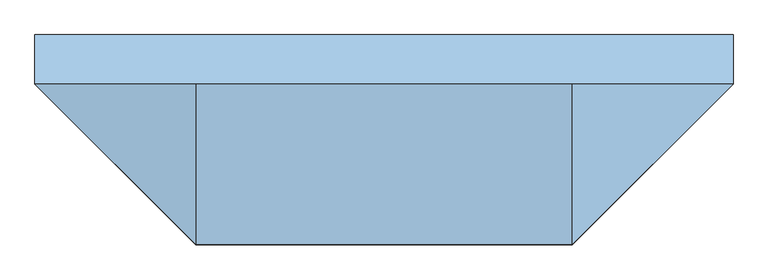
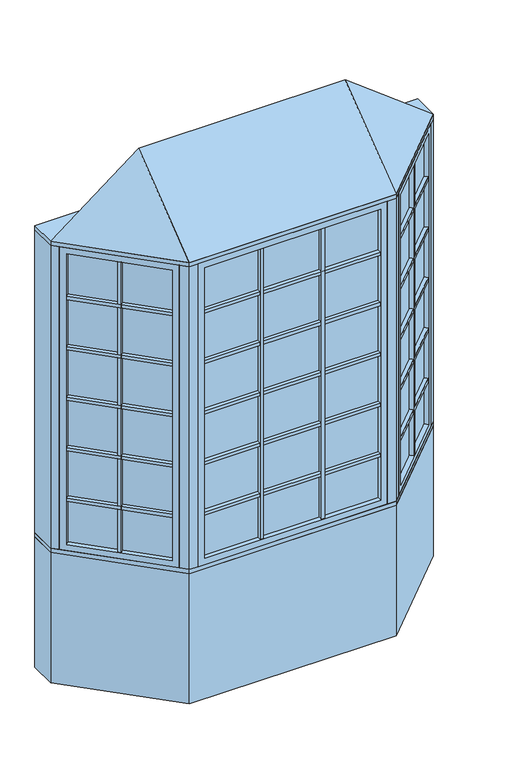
"""IFC4 building model written with IfcOpenShell, lengths in millimetres: window geometry, Pollard_Windows_Tudor Casement Bows and Bays : AML-BAY 45 AFR0618-10-600_GC."""

from ifc_helpers import new_model, si_unit, frame, origin, origin_with_axes, place, context, project, spatial, polyline, outline, extrude, faceted_brep, source, transform, mapped, element, save


def window_4135a6ea(model_context):
    return source(origin(), model_context, "Body", "SolidModel", [
        extrude(outline(polyline([(639.5114193, -506.9608753), (623.9550701, -491.4045261), (1001.616171, -113.7434252), (1017.1725202, -129.2997743), (639.5114193, -506.9608753)])), frame((0.0, 0.0, 1690.998), z_axis=(0.0, 0.0, 1.0), x_axis=(1.0, 0.0, 0.0)), (0.0, 0.0, 1.0), 18.0),
        extrude(outline(polyline([(620.3629677, -487.8124236), (604.8066185, -472.2560744), (982.4677194, -94.5949735), (998.0240686, -110.1513227), (620.3629677, -487.8124236)])), frame((0.0, 0.0, 1690.998), z_axis=(0.0, 0.0, 1.0), x_axis=(1.0, 0.0, 0.0)), (0.0, 0.0, 1.0), 18.0),
        extrude(outline(polyline([(639.5114193, -506.9608753), (623.9550701, -491.4045261), (1001.616171, -113.7434252), (1017.1725202, -129.2997743), (639.5114193, -506.9608753)])), frame((0.0, 0.0, 1090.998), z_axis=(0.0, 0.0, 1.0), x_axis=(1.0, 0.0, 0.0)), (0.0, 0.0, 1.0), 18.0),
        extrude(outline(polyline([(620.3629677, -487.8124236), (604.8066185, -472.2560744), (982.4677194, -94.5949735), (998.0240686, -110.1513227), (620.3629677, -487.8124236)])), frame((0.0, 0.0, 1090.998), z_axis=(0.0, 0.0, 1.0), x_axis=(1.0, 0.0, 0.0)), (0.0, 0.0, 1.0), 18.0),
        extrude(outline(polyline([(639.5114193, -506.9608753), (623.9550701, -491.4045261), (1001.616171, -113.7434252), (1017.1725202, -129.2997743), (639.5114193, -506.9608753)])), frame((0.0, 0.0, 1390.998), z_axis=(0.0, 0.0, 1.0), x_axis=(1.0, 0.0, 0.0)), (0.0, 0.0, 1.0), 18.0),
        extrude(outline(polyline([(620.3629677, -487.8124236), (604.8066185, -472.2560744), (982.4677194, -94.5949735), (998.0240686, -110.1513227), (620.3629677, -487.8124236)])), frame((0.0, 0.0, 1390.998), z_axis=(0.0, 0.0, 1.0), x_axis=(1.0, 0.0, 0.0)), (0.0, 0.0, 1.0), 18.0),
        extrude(outline(polyline([(639.5114193, -506.9608753), (623.9550701, -491.4045261), (1001.616171, -113.7434252), (1017.1725202, -129.2997743), (639.5114193, -506.9608753)])), frame((0.0, 0.0, 1990.998), z_axis=(0.0, 0.0, 1.0), x_axis=(1.0, 0.0, 0.0)), (0.0, 0.0, 1.0), 18.0),
        extrude(outline(polyline([(620.3629677, -487.8124236), (604.8066185, -472.2560744), (982.4677194, -94.5949735), (998.0240686, -110.1513227), (620.3629677, -487.8124236)])), frame((0.0, 0.0, 1990.998), z_axis=(0.0, 0.0, 1.0), x_axis=(1.0, 0.0, 0.0)), (0.0, 0.0, 1.0), 18.0),
        extrude(outline(polyline([(639.5114193, -506.9608753), (623.9550701, -491.4045261), (1001.616171, -113.7434252), (1017.1725202, -129.2997743), (639.5114193, -506.9608753)])), frame((0.0, 0.0, 2290.998), z_axis=(0.0, 0.0, 1.0), x_axis=(1.0, 0.0, 0.0)), (0.0, 0.0, 1.0), 18.0),
        extrude(outline(polyline([(620.3629677, -487.8124236), (604.8066185, -472.2560744), (982.4677194, -94.5949735), (998.0240686, -110.1513227), (620.3629677, -487.8124236)])), frame((0.0, 0.0, 2290.998), z_axis=(0.0, 0.0, 1.0), x_axis=(1.0, 0.0, 0.0)), (0.0, 0.0, 1.0), 18.0),
        extrude(outline(polyline([(819.1495816, -296.2100146), (834.7059308, -311.7663638), (821.9780087, -324.4942858), (806.4216595, -308.9379366), (819.1495816, -296.2100146)])), frame((0.0, 0.0, 835.8628), z_axis=(0.0, 0.0, 1.0), x_axis=(1.0, 0.0, 0.0)), (0.0, 0.0, 1.0), 1728.2704),
        extrude(outline(polyline([(815.5574791, -292.6179121), (802.8295571, -305.3458342), (787.2732079, -289.789485), (800.00113, -277.0615629), (815.5574791, -292.6179121)])), frame((0.0, 0.0, 835.8628), z_axis=(0.0, 0.0, 1.0), x_axis=(1.0, 0.0, 0.0)), (0.0, 0.0, 1.0), 1728.2704),
        extrude(outline(polyline([(1010.5964271, -104.763169), (614.974814, -500.3847822), (611.3827115, -496.7926797), (1007.0043247, -101.1710666), (1010.5964271, -104.763169)])), frame((0.0, 0.0, 823.1628), z_axis=(0.0, 0.0, 1.0), x_axis=(1.0, 0.0, 0.0)), (0.0, 0.0, 1.0), 1753.6704),
        faceted_brep([(1001.616171, -113.7434252, 835.8628), (1019.5766833, -131.7039374, 835.8628), (1019.5766833, -131.7039374, 2564.1332), (1001.616171, -113.7434252, 2564.1332), (1007.0043247, -101.1710666, 823.1628), (1010.5964271, -104.763169, 823.1628), (1010.5964271, -104.763169, 2576.8332), (1007.0043247, -101.1710666, 2576.8332), (980.0635563, -92.1908105, 835.8628), (998.0240686, -110.1513227, 835.8628), (998.0240686, -110.1513227, 2564.1332), (980.0635563, -92.1908105, 2564.1332), (1044.9369265, -106.3436941, 799.998), (1005.4237996, -66.8305672, 799.998), (1005.4237996, -66.8305672, 2599.998), (1044.9369265, -106.3436941, 2599.998), (641.9155823, -509.3650383, 2564.1332), (623.9550701, -491.4045261, 2564.1332), (614.974814, -500.3847822, 2576.8332), (611.3827115, -496.7926797, 2576.8332), (620.3629677, -487.8124236, 2564.1332), (602.4024554, -469.8519114, 2564.1332), (577.0422121, -495.2121547, 2599.998), (616.5553391, -534.7252816, 2599.998), (641.9155823, -509.3650383, 835.8628), (623.9550701, -491.4045261, 835.8628), (614.974814, -500.3847822, 823.1628), (611.3827115, -496.7926797, 823.1628), (620.3629677, -487.8124236, 835.8628), (602.4024554, -469.8519114, 835.8628), (577.0422121, -495.2121547, 799.998), (616.5553391, -534.7252816, 799.998)], [[[0, 1, 2, 3]], [[4, 5, 6, 7]], [[8, 9, 10, 11]], [[12, 13, 14, 15]], [[3, 2, 16, 17]], [[7, 6, 18, 19]], [[11, 10, 20, 21]], [[15, 14, 22, 23]], [[17, 16, 24, 25]], [[19, 18, 26, 27]], [[21, 20, 28, 29]], [[23, 22, 30, 31]], [[25, 24, 1, 0]], [[5, 26, 18, 6], [3, 17, 25, 0]], [[27, 26, 5, 4]], [[7, 19, 27, 4], [9, 28, 20, 10]], [[29, 28, 9, 8]], [[13, 30, 22, 14], [11, 21, 29, 8]], [[31, 30, 13, 12]], [[15, 23, 31, 12], [1, 24, 16, 2]]]),
        extrude(outline(polyline([(181.3452, -544.6806207), (181.3452, -566.6806207), (163.3452, -566.6806207), (163.3452, -544.6806207), (181.3452, -544.6806207)])), frame((0.0, 0.0, 835.8628), z_axis=(0.0, 0.0, 1.0), x_axis=(1.0, 0.0, 0.0)), (0.0, 0.0, 1.0), 1728.2704),
        extrude(outline(polyline([(181.3452, -539.6006207), (163.3452, -539.6006207), (163.3452, -517.6006207), (181.3452, -517.6006207), (181.3452, -539.6006207)])), frame((0.0, 0.0, 835.8628), z_axis=(0.0, 0.0, 1.0), x_axis=(1.0, 0.0, 0.0)), (0.0, 0.0, 1.0), 1728.2704),
        extrude(outline(polyline([(-163.3452, -544.6806207), (-163.3452, -566.6806207), (-181.3452, -566.6806207), (-181.3452, -544.6806207), (-163.3452, -544.6806207)])), frame((0.0, 0.0, 835.8628), z_axis=(0.0, 0.0, 1.0), x_axis=(1.0, 0.0, 0.0)), (0.0, 0.0, 1.0), 1728.2704),
        extrude(outline(polyline([(-163.3452, -539.6006207), (-181.3452, -539.6006207), (-181.3452, -517.6006207), (-163.3452, -517.6006207), (-163.3452, -539.6006207)])), frame((0.0, 0.0, 835.8628), z_axis=(0.0, 0.0, 1.0), x_axis=(1.0, 0.0, 0.0)), (0.0, 0.0, 1.0), 1728.2704),
        extrude(outline(polyline([(-495.3352, -566.6806207), (-495.3352, -544.6806207), (495.3352, -544.6806207), (495.3352, -566.6806207), (-495.3352, -566.6806207)])), frame((0.0, 0.0, 1090.998), z_axis=(0.0, 0.0, 1.0), x_axis=(1.0, 0.0, 0.0)), (0.0, 0.0, 1.0), 18.0),
        extrude(outline(polyline([(-495.3352, -539.6006207), (-495.3352, -517.6006207), (495.3352, -517.6006207), (495.3352, -539.6006207), (-495.3352, -539.6006207)])), frame((0.0, 0.0, 1090.998), z_axis=(0.0, 0.0, 1.0), x_axis=(1.0, 0.0, 0.0)), (0.0, 0.0, 1.0), 18.0),
        extrude(outline(polyline([(-495.3352, -566.6806207), (-495.3352, -544.6806207), (495.3352, -544.6806207), (495.3352, -566.6806207), (-495.3352, -566.6806207)])), frame((0.0, 0.0, 1390.998), z_axis=(0.0, 0.0, 1.0), x_axis=(1.0, 0.0, 0.0)), (0.0, 0.0, 1.0), 18.0),
        extrude(outline(polyline([(-495.3352, -539.6006207), (-495.3352, -517.6006207), (495.3352, -517.6006207), (495.3352, -539.6006207), (-495.3352, -539.6006207)])), frame((0.0, 0.0, 1390.998), z_axis=(0.0, 0.0, 1.0), x_axis=(1.0, 0.0, 0.0)), (0.0, 0.0, 1.0), 18.0),
        extrude(outline(polyline([(-495.3352, -566.6806207), (-495.3352, -544.6806207), (495.3352, -544.6806207), (495.3352, -566.6806207), (-495.3352, -566.6806207)])), frame((0.0, 0.0, 1690.998), z_axis=(0.0, 0.0, 1.0), x_axis=(1.0, 0.0, 0.0)), (0.0, 0.0, 1.0), 18.0),
        extrude(outline(polyline([(-495.3352, -539.6006207), (-495.3352, -517.6006207), (495.3352, -517.6006207), (495.3352, -539.6006207), (-495.3352, -539.6006207)])), frame((0.0, 0.0, 1690.998), z_axis=(0.0, 0.0, 1.0), x_axis=(1.0, 0.0, 0.0)), (0.0, 0.0, 1.0), 18.0),
        extrude(outline(polyline([(-495.3352, -566.6806207), (-495.3352, -544.6806207), (495.3352, -544.6806207), (495.3352, -566.6806207), (-495.3352, -566.6806207)])), frame((0.0, 0.0, 1990.998), z_axis=(0.0, 0.0, 1.0), x_axis=(1.0, 0.0, 0.0)), (0.0, 0.0, 1.0), 18.0),
        extrude(outline(polyline([(-495.3352, -539.6006207), (-495.3352, -517.6006207), (495.3352, -517.6006207), (495.3352, -539.6006207), (-495.3352, -539.6006207)])), frame((0.0, 0.0, 1990.998), z_axis=(0.0, 0.0, 1.0), x_axis=(1.0, 0.0, 0.0)), (0.0, 0.0, 1.0), 18.0),
        extrude(outline(polyline([(-1017.1725202, -129.2997743), (-1001.616171, -113.7434252), (-623.9550701, -491.4045261), (-639.5114193, -506.9608753), (-1017.1725202, -129.2997743)])), frame((0.0, 0.0, 1090.998), z_axis=(0.0, 0.0, 1.0), x_axis=(1.0, 0.0, 0.0)), (0.0, 0.0, 1.0), 18.0),
        extrude(outline(polyline([(-998.0240686, -110.1513227), (-982.4677194, -94.5949735), (-604.8066185, -472.2560744), (-620.3629677, -487.8124236), (-998.0240686, -110.1513227)])), frame((0.0, 0.0, 1090.998), z_axis=(0.0, 0.0, 1.0), x_axis=(1.0, 0.0, 0.0)), (0.0, 0.0, 1.0), 18.0),
        extrude(outline(polyline([(-1017.1725202, -129.2997743), (-1001.616171, -113.7434252), (-623.9550701, -491.4045261), (-639.5114193, -506.9608753), (-1017.1725202, -129.2997743)])), frame((0.0, 0.0, 1390.998), z_axis=(0.0, 0.0, 1.0), x_axis=(1.0, 0.0, 0.0)), (0.0, 0.0, 1.0), 18.0),
        extrude(outline(polyline([(-998.0240686, -110.1513227), (-982.4677194, -94.5949735), (-604.8066185, -472.2560744), (-620.3629677, -487.8124236), (-998.0240686, -110.1513227)])), frame((0.0, 0.0, 1390.998), z_axis=(0.0, 0.0, 1.0), x_axis=(1.0, 0.0, 0.0)), (0.0, 0.0, 1.0), 18.0),
        extrude(outline(polyline([(-1017.1725202, -129.2997743), (-1001.616171, -113.7434252), (-623.9550701, -491.4045261), (-639.5114193, -506.9608753), (-1017.1725202, -129.2997743)])), frame((0.0, 0.0, 1690.998), z_axis=(0.0, 0.0, 1.0), x_axis=(1.0, 0.0, 0.0)), (0.0, 0.0, 1.0), 18.0),
        extrude(outline(polyline([(-998.0240686, -110.1513227), (-982.4677194, -94.5949735), (-604.8066185, -472.2560744), (-620.3629677, -487.8124236), (-998.0240686, -110.1513227)])), frame((0.0, 0.0, 1690.998), z_axis=(0.0, 0.0, 1.0), x_axis=(1.0, 0.0, 0.0)), (0.0, 0.0, 1.0), 18.0),
        extrude(outline(polyline([(-1017.1725202, -129.2997743), (-1001.616171, -113.7434252), (-623.9550701, -491.4045261), (-639.5114193, -506.9608753), (-1017.1725202, -129.2997743)])), frame((0.0, 0.0, 1990.998), z_axis=(0.0, 0.0, 1.0), x_axis=(1.0, 0.0, 0.0)), (0.0, 0.0, 1.0), 18.0),
        extrude(outline(polyline([(-998.0240686, -110.1513227), (-982.4677194, -94.5949735), (-604.8066185, -472.2560744), (-620.3629677, -487.8124236), (-998.0240686, -110.1513227)])), frame((0.0, 0.0, 1990.998), z_axis=(0.0, 0.0, 1.0), x_axis=(1.0, 0.0, 0.0)), (0.0, 0.0, 1.0), 18.0),
        extrude(outline(polyline([(-1017.1725202, -129.2997743), (-1001.616171, -113.7434252), (-623.9550701, -491.4045261), (-639.5114193, -506.9608753), (-1017.1725202, -129.2997743)])), frame((0.0, 0.0, 2290.998), z_axis=(0.0, 0.0, 1.0), x_axis=(1.0, 0.0, 0.0)), (0.0, 0.0, 1.0), 18.0),
        extrude(outline(polyline([(-998.0240686, -110.1513227), (-982.4677194, -94.5949735), (-604.8066185, -472.2560744), (-620.3629677, -487.8124236), (-998.0240686, -110.1513227)])), frame((0.0, 0.0, 2290.998), z_axis=(0.0, 0.0, 1.0), x_axis=(1.0, 0.0, 0.0)), (0.0, 0.0, 1.0), 18.0),
        extrude(outline(polyline([(-495.3352, -566.6806207), (-495.3352, -544.6806207), (495.3352, -544.6806207), (495.3352, -566.6806207), (-495.3352, -566.6806207)])), frame((0.0, 0.0, 2290.998), z_axis=(0.0, 0.0, 1.0), x_axis=(1.0, 0.0, 0.0)), (0.0, 0.0, 1.0), 18.0),
        extrude(outline(polyline([(-495.3352, -539.6006207), (-495.3352, -517.6006207), (495.3352, -517.6006207), (495.3352, -539.6006207), (-495.3352, -539.6006207)])), frame((0.0, 0.0, 2290.998), z_axis=(0.0, 0.0, 1.0), x_axis=(1.0, 0.0, 0.0)), (0.0, 0.0, 1.0), 18.0),
        extrude(outline(polyline([(-806.4216595, -308.9379366), (-821.9780087, -324.4942858), (-834.7059308, -311.7663638), (-819.1495816, -296.2100146), (-806.4216595, -308.9379366)])), frame((0.0, 0.0, 835.8628), z_axis=(0.0, 0.0, 1.0), x_axis=(1.0, 0.0, 0.0)), (0.0, 0.0, 1.0), 1728.2704),
        extrude(outline(polyline([(-802.8295571, -305.3458342), (-815.5574791, -292.6179121), (-800.00113, -277.0615629), (-787.2732079, -289.789485), (-802.8295571, -305.3458342)])), frame((0.0, 0.0, 835.8628), z_axis=(0.0, 0.0, 1.0), x_axis=(1.0, 0.0, 0.0)), (0.0, 0.0, 1.0), 1728.2704),
        extrude(outline(polyline([(-614.974814, -500.3847822), (-1010.5964271, -104.763169), (-1007.0043247, -101.1710666), (-611.3827115, -496.7926797), (-614.974814, -500.3847822)])), frame((0.0, 0.0, 823.1628), z_axis=(0.0, 0.0, 1.0), x_axis=(1.0, 0.0, 0.0)), (0.0, 0.0, 1.0), 1753.6704),
        faceted_brep([(-620.3629677, -487.8124236, 2564.1332), (-602.4024554, -469.8519114, 2564.1332), (-602.4024554, -469.8519114, 835.8628), (-620.3629677, -487.8124236, 835.8628), (-614.974814, -500.3847822, 2576.8332), (-611.3827115, -496.7926797, 2576.8332), (-611.3827115, -496.7926797, 823.1628), (-614.974814, -500.3847822, 823.1628), (-641.9155823, -509.3650383, 2564.1332), (-623.9550701, -491.4045261, 2564.1332), (-623.9550701, -491.4045261, 835.8628), (-641.9155823, -509.3650383, 835.8628), (-577.0422121, -495.2121547, 2599.998), (-616.5553391, -534.7252816, 2599.998), (-616.5553391, -534.7252816, 799.998), (-577.0422121, -495.2121547, 799.998), (-980.0635563, -92.1908105, 835.8628), (-998.0240686, -110.1513227, 835.8628), (-1007.0043247, -101.1710666, 823.1628), (-1010.5964271, -104.763169, 823.1628), (-1001.616171, -113.7434252, 835.8628), (-1019.5766833, -131.7039374, 835.8628), (-1044.9369265, -106.3436941, 799.998), (-1005.4237996, -66.8305672, 799.998), (-980.0635563, -92.1908105, 2564.1332), (-998.0240686, -110.1513227, 2564.1332), (-1007.0043247, -101.1710666, 2576.8332), (-1010.5964271, -104.763169, 2576.8332), (-1001.616171, -113.7434252, 2564.1332), (-1019.5766833, -131.7039374, 2564.1332), (-1044.9369265, -106.3436941, 2599.998), (-1005.4237996, -66.8305672, 2599.998)], [[[0, 1, 2, 3]], [[4, 5, 6, 7]], [[8, 9, 10, 11]], [[12, 13, 14, 15]], [[3, 2, 16, 17]], [[7, 6, 18, 19]], [[11, 10, 20, 21]], [[15, 14, 22, 23]], [[17, 16, 24, 25]], [[19, 18, 26, 27]], [[21, 20, 28, 29]], [[23, 22, 30, 31]], [[15, 23, 31, 12], [1, 24, 16, 2]], [[25, 24, 1, 0]], [[5, 26, 18, 6], [3, 17, 25, 0]], [[27, 26, 5, 4]], [[7, 19, 27, 4], [9, 28, 20, 10]], [[29, 28, 9, 8]], [[13, 30, 22, 14], [11, 21, 29, 8]], [[31, 30, 13, 12]]]),
        extrude(outline(polyline([(508.0352, -544.6806207), (-508.0352, -544.6806207), (-508.0352, -539.6006207), (508.0352, -539.6006207), (508.0352, -544.6806207)])), frame((0.0, 0.0, 823.1628), z_axis=(0.0, 0.0, 1.0), x_axis=(1.0, 0.0, 0.0)), (0.0, 0.0, 1.0), 1753.6704),
        faceted_brep([(495.3352, -544.6806207, 835.8628), (495.3352, -570.0806207, 835.8628), (495.3352, -570.0806207, 2564.1332), (495.3352, -544.6806207, 2564.1332), (508.0352, -539.6006207, 823.1628), (508.0352, -544.6806207, 823.1628), (508.0352, -544.6806207, 2576.8332), (508.0352, -539.6006207, 2576.8332), (495.3352, -514.2006207, 835.8628), (495.3352, -539.6006207, 835.8628), (495.3352, -539.6006207, 2564.1332), (495.3352, -514.2006207, 2564.1332), (531.2, -570.0806207, 799.998), (531.2, -514.2006207, 799.998), (531.2, -514.2006207, 2599.998), (531.2, -570.0806207, 2599.998), (-495.3352, -570.0806207, 2564.1332), (-495.3352, -544.6806207, 2564.1332), (-508.0352, -544.6806207, 2576.8332), (-508.0352, -539.6006207, 2576.8332), (-495.3352, -539.6006207, 2564.1332), (-495.3352, -514.2006207, 2564.1332), (-531.2, -514.2006207, 2599.998), (-531.2, -570.0806207, 2599.998), (-495.3352, -570.0806207, 835.8628), (-495.3352, -544.6806207, 835.8628), (-508.0352, -544.6806207, 823.1628), (-508.0352, -539.6006207, 823.1628), (-495.3352, -539.6006207, 835.8628), (-495.3352, -514.2006207, 835.8628), (-531.2, -514.2006207, 799.998), (-531.2, -570.0806207, 799.998)], [[[0, 1, 2, 3]], [[4, 5, 6, 7]], [[8, 9, 10, 11]], [[12, 13, 14, 15]], [[3, 2, 16, 17]], [[7, 6, 18, 19]], [[11, 10, 20, 21]], [[15, 14, 22, 23]], [[17, 16, 24, 25]], [[19, 18, 26, 27]], [[21, 20, 28, 29]], [[23, 22, 30, 31]], [[15, 23, 31, 12], [1, 24, 16, 2]], [[25, 24, 1, 0]], [[5, 26, 18, 6], [3, 17, 25, 0]], [[27, 26, 5, 4]], [[7, 19, 27, 4], [9, 28, 20, 10]], [[29, 28, 9, 8]], [[13, 30, 22, 14], [11, 21, 29, 8]], [[31, 30, 13, 12]]]),
        faceted_brep([(1076.5, -74.7806207, 2625.398), (581.2, -570.0806207, 2625.398), (-581.2, -570.0806207, 2625.398), (-1076.5, -74.7806207, 2625.398), (-581.2, -74.7806207, 3006.398), (581.2, -74.7806207, 3006.398)], [[[0, 1, 2, 3]], [[3, 2, 4]], [[2, 1, 5, 4]], [[1, 0, 5]], [[0, 3, 4, 5]]]),
        extrude(outline(polyline([(-1076.5, 77.6193793), (1076.5, 77.6193793), (1076.5, -74.7806207), (581.2, -570.0806207), (-581.2, -570.0806207), (-1076.5, -74.7806207), (-1076.5, 77.6193793)])), frame((0.0, 0.0, 2599.998), z_axis=(0.0, 0.0, 1.0), x_axis=(1.0, 0.0, 0.0)), (0.0, 0.0, 1.0), 25.4),
        extrude(outline(polyline([(-1076.5, -74.7806207), (-1076.5, 77.6193793), (-1013.3738531, 77.6193793), (-1013.3738531, -74.7806207), (-1044.9369265, -106.3436941), (-1076.5, -74.7806207)])), frame((0.0, 0.0, 799.998), z_axis=(0.0, 0.0, 1.0), x_axis=(1.0, 0.0, 0.0)), (0.0, 0.0, 1.0), 1800.0),
        extrude(outline(polyline([(1076.5, 77.6193793), (1076.5, -74.7806207), (1044.9369265, -106.3436941), (1013.3738531, -74.7806207), (1013.3738531, 77.6193793), (1076.5, 77.6193793)])), frame((0.0, 0.0, 799.998), z_axis=(0.0, 0.0, 1.0), x_axis=(1.0, 0.0, 0.0)), (0.0, 0.0, 1.0), 1800.0),
        extrude(outline(polyline([(581.2, -570.0806207), (531.2, -570.0806207), (531.2, -520.0806207), (560.4893219, -520.0806207), (581.2, -499.3699425), (616.5553391, -534.7252816), (581.2, -570.0806207)])), frame((0.0, 0.0, 799.998), z_axis=(0.0, 0.0, 1.0), x_axis=(1.0, 0.0, 0.0)), (0.0, 0.0, 1.0), 1800.0),
        extrude(outline(polyline([(-581.2, -570.0806207), (-616.5553391, -534.7252816), (-581.2, -499.3699425), (-560.4893219, -520.0806207), (-531.2, -520.0806207), (-531.2, -570.0806207), (-581.2, -570.0806207)])), frame((0.0, 0.0, 799.998), z_axis=(0.0, 0.0, 1.0), x_axis=(1.0, 0.0, 0.0)), (0.0, 0.0, 1.0), 1800.0),
        extrude(outline(polyline([(-581.2, -570.0806207), (-1076.5, -74.7806207), (-1076.5, 77.6193793), (-1013.3738531, 77.6193793), (-518.0738531, -417.6806207), (518.0738531, -417.6806207), (1013.3738531, 77.6193793), (1076.5, 77.6193793), (1076.5, -74.7806207), (581.2, -570.0806207), (-581.2, -570.0806207)])), frame((0.0, 0.0, 774.598), z_axis=(0.0, 0.0, 1.0), x_axis=(1.0, 0.0, 0.0)), (0.0, 0.0, 1.0), 25.4),
        extrude(outline(polyline([(-1076.5, -74.7806207), (-1076.5, 77.6193793), (-1013.3738531, 77.6193793), (-518.0738531, -417.6806207), (518.0738531, -417.6806207), (1013.3738531, 77.6193793), (1076.5, 77.6193793), (1076.5, -74.7806207), (581.2, -570.0806207), (-581.2, -570.0806207), (-1076.5, -74.7806207)])), origin_with_axes(), (0.0, 0.0, 1.0), 774.598),
    ])


if __name__ == "__main__":
    model = new_model("IFC4")
    model_context = context("Model", 3, world=origin())
    ifc_project = project(units=[si_unit("LENGTHUNIT", "METRE", prefix="MILLI")], contexts=[model_context])
    site = spatial("IfcSite", under=ifc_project)
    building = spatial("IfcBuilding", under=site)
    placement = place(None, origin())
    window_shape = window_4135a6ea(model_context)
    element("IfcWindow", 1, ObjectType="Pollard_Windows_Tudor Casement Bows and Bays : AML-BAY 45 AFR0618-10-600_GC", at=placement, inside=building, context=model_context, shape_type="MappedRepresentation", body=[
        mapped(window_shape, transform((0.0, 0.0, 0.0), x_axis=(1.0, 0.0, 0.0), y_axis=(0.0, 1.0, 0.0), z_axis=(0.0, 0.0, 1.0))),
    ])
    save(model, "model.ifc")
